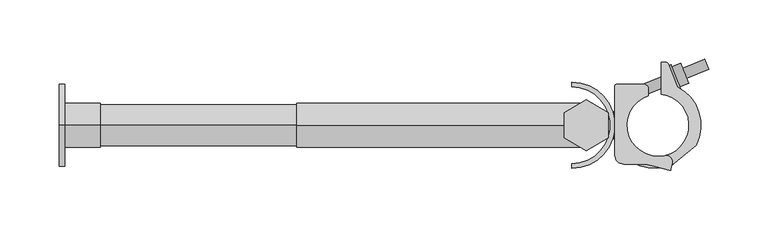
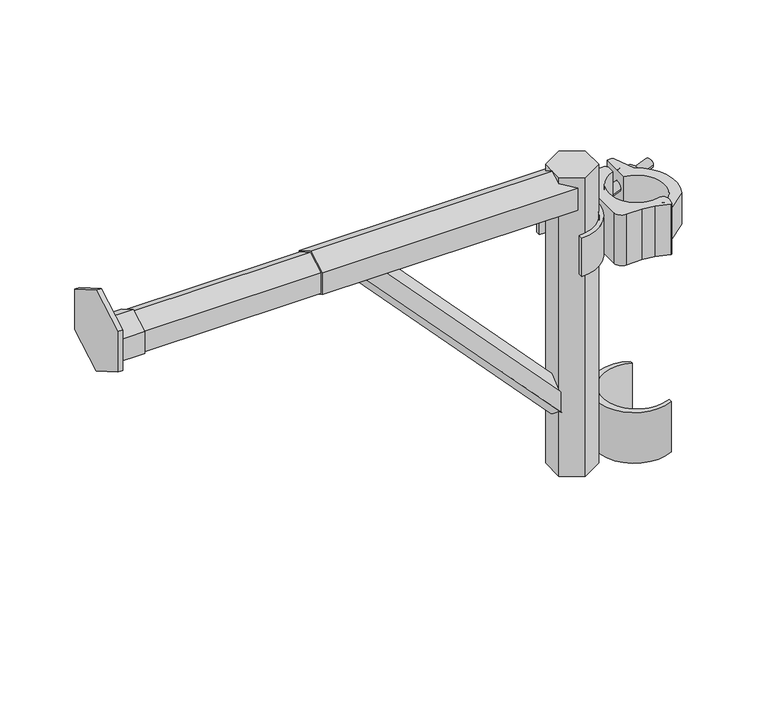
"""IFC4 building model written with IfcOpenShell, lengths in millimetres: proxy geometry, AK_伸縮ブラケット500_軽 : AK_伸縮ブラケット500_軽."""

from ifc_helpers import new_model, si_unit, point, frame, frame_2d, origin, origin_2d, place, context, project, spatial, polyline, circle_curve, ellipse_curve, trimmed, segment, composite_curve, outline, extrude, faceted_brep, source, transform, mapped, element, save
from ifc_brep_helpers import plane_surface, cylinder_surface, revolved_surface, advanced_brep


def generic_models_2c6fe471(model_context):
    return source(origin(), model_context, "Body", "SolidModel", [
        faceted_brep([(-304.3999998, -18.4896424, 10.675), (-304.3999998, 0.0, 21.35), (-304.3999998, 18.4896424, 10.675), (-304.3999998, 18.4896424, -10.675), (-304.3999998, 0.0, -21.35), (-304.3999998, -18.4896424, -10.675), (-41.8603576, 10.675, 21.35), (-60.35, 21.35, 21.35), (-78.8396424, 10.675, 21.35), (-78.8396424, 0.0, 21.35), (-78.8396424, -10.675, 21.35), (-60.35, -21.35, 21.35), (-41.8603576, -10.675, 21.35), (-41.8603576, 10.675, -273.65), (-41.8603576, -10.675, -273.65), (-60.35, -21.35, -273.65), (-78.8396424, -10.675, -273.65), (-78.8396424, 10.675, -273.65), (-60.35, 21.35, -273.65), (-78.8396424, -10.675, 15.1867859), (-65.3042847, -18.4896424, 10.675), (-65.3042847, -18.4896424, -10.675), (-78.8396424, -10.675, -15.1867859), (-78.8396424, 10.675, 15.1867859), (-78.8396424, 0.0, -21.35), (-78.8396424, 10.675, -15.1867859), (-65.3042847, 18.4896424, -10.675), (-65.3042847, 18.4896424, 10.675)], [[[0, 1, 2, 3, 4, 5]], [[6, 7, 8, 9, 10, 11, 12]], [[13, 14, 15, 16, 17, 18]], [[6, 12, 14, 13]], [[12, 11, 15, 14]], [[11, 10, 19, 20, 21, 22, 16, 15]], [[9, 8, 23]], [[10, 9, 19]], [[17, 16, 22, 24, 25]], [[8, 7, 18, 17, 25, 26, 27, 23]], [[7, 6, 13, 18]], [[0, 5, 21, 20]], [[5, 4, 24, 22, 21]], [[4, 3, 26, 25, 24]], [[3, 2, 27, 26]], [[2, 1, 9, 23, 27]], [[1, 0, 20, 19, 9]]]),
        faceted_brep([(-261.3999998, 17.3205081, 10.0), (-261.3999998, 0.0, 20.0), (-261.3999998, -17.3205081, 10.0), (-261.3999998, -17.3205081, -10.0), (-261.3999998, 0.0, -20.0), (-261.3999998, 17.3205081, -10.0), (-470.0, 18.4896424, 10.675), (-470.0, 0.0, 21.35), (-470.0, -18.4896424, 10.675), (-470.0, -18.4896424, -10.675), (-470.0, 0.0, -21.35), (-470.0, 18.4896424, -10.675), (-470.0, 17.3205081, 10.0), (-470.0, 17.3205081, -10.0), (-470.0, 0.0, -20.0), (-470.0, -17.3205081, -10.0), (-470.0, -17.3205081, 10.0), (-470.0, 0.0, 20.0), (-504.6000002, 34.6410162, 32.85), (-504.6000002, 34.6410162, -7.15), (-504.6000002, 0.0, -27.15), (-504.6000002, -34.6410162, -7.15), (-504.6000002, -34.6410162, 32.85), (-504.6000002, 0.0, 52.85), (-500.0, 34.6410162, 32.85), (-500.0, 0.0, 52.85), (-500.0, -34.6410162, 32.85), (-500.0, -34.6410162, -7.15), (-500.0, 0.0, -27.15), (-500.0, 34.6410162, -7.15), (-500.0, 18.4896424, 10.675), (-500.0, 18.4896424, -10.675), (-500.0, 0.0, -21.35), (-500.0, -18.4896424, -10.675), (-500.0, -18.4896424, 10.675), (-500.0, 0.0, 21.35)], [[[0, 1, 2, 3, 4, 5]], [[6, 7, 8, 9, 10, 11], [12, 13, 14, 15, 16, 17]], [[18, 19, 20, 21, 22, 23]], [[24, 25, 26, 27, 28, 29], [30, 31, 32, 33, 34, 35]], [[0, 5, 13, 12]], [[5, 4, 14, 13]], [[4, 3, 15, 14]], [[3, 2, 16, 15]], [[2, 1, 17, 16]], [[1, 0, 12, 17]], [[6, 11, 31, 30]], [[11, 10, 32, 31]], [[10, 9, 33, 32]], [[9, 8, 34, 33]], [[8, 7, 35, 34]], [[7, 6, 30, 35]], [[19, 18, 24, 29]], [[20, 19, 29, 28]], [[21, 20, 28, 27]], [[22, 21, 27, 26]], [[23, 22, 26, 25]], [[18, 23, 25, 24]]]),
        extrude(outline(composite_curve([segment(trimmed(circle_curve(frame_2d((-72.4772304, 0.0)), 32.35), [point((-72.4772304, -32.35))], [point((-72.4772304, 32.35))], True, "CARTESIAN"), True, "CONTINUOUS"), segment(polyline([(-72.4772304, 32.35), (-72.4772304, 36.239624)]), True, "CONTINUOUS"), segment(trimmed(circle_curve(frame_2d((-72.4772304, 0.0)), 36.239624), [point((-72.4772304, 36.239624))], [point((-72.4772304, -36.239624))], False, "CARTESIAN"), True, "CONTINUOUS"), segment(polyline([(-72.4772304, -36.239624), (-72.4772304, -32.35)]), True, "CONTINUOUS")], self_intersect=False)), frame((0.0, 0.0, -63.15), z_axis=(0.0, 0.0, 1.0), x_axis=(1.0, 0.0, 0.0)), (0.0, 0.0, 1.0), 38.0),
        extrude(outline(polyline([(0.0, 0.0), (13.6, 0.0), (20.4, -11.7779455), (13.6, -23.555891), (0.0, -23.555891), (-6.8, -11.7779455), (0.0, 0.0)])), frame((-65.161626, -11.7779455, -203.7085173), z_axis=(-0.682087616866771, 0.0, 0.731270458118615), x_axis=(-0.731270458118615, 0.0, -0.682087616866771)), (0.0, 0.0, 1.0), 269.206264),
        extrude(outline(composite_curve([segment(polyline([(13.0, -29.6230063), (13.0, -32.8304694)]), True, "CONTINUOUS"), segment(trimmed(circle_curve(frame_2d((-2.4397703, -0.0444382)), 36.239624), [point((13.0, -32.8304694))], [point((13.0, 32.741593))], False, "CARTESIAN"), True, "CONTINUOUS"), segment(polyline([(13.0, 32.741593), (13.0, 29.6230063)]), True, "CONTINUOUS"), segment(trimmed(circle_curve(origin_2d(), 32.35), [point((13.0, 29.6230063))], [point((13.0, -29.6230063))], True, "CARTESIAN"), True, "CONTINUOUS")], self_intersect=False)), frame((0.0, 0.0, -268.65), z_axis=(0.0, 0.0, 1.0), x_axis=(1.0, 0.0, 0.0)), (0.0, 0.0, 1.0), 50.0),
        advanced_brep(
        [(9.3330718, -30.709739, -23.15), (4.3330722, -30.709739, -23.15), (6.833072, -30.709739, -21.65), (10.833072, -30.709739, -23.15), (2.833072, -30.709739, -23.15), (10.833072, -30.709739, -24.15), (2.833072, -30.709739, -24.15), (6.833072, -30.709739, -24.15)],
        [
            (0, 1, circle_curve(frame((6.833072, -30.709739, -23.15), z_axis=(0.0, 0.0, 1.0), x_axis=(-1.0, 0.0, 0.0)), 2.4999998)),
            (1, 2, circle_curve(frame((6.833072, -30.709739, -24.483333), z_axis=(0.0, 1.0, 0.0), x_axis=(1.0, 0.0, 0.0)), 2.833333)),
            (2, 0, circle_curve(frame((6.833072, -30.709739, -24.483333), z_axis=(0.0, 1.0, 0.0), x_axis=(-1.0, 0.0, 0.0)), 2.833333)),
            (1, 0, circle_curve(frame((6.833072, -30.709739, -23.15), z_axis=(0.0, 0.0, 1.0), x_axis=(-1.0, 0.0, 0.0)), 2.4999998)),
            (3, 4, circle_curve(frame((6.833072, -30.709739, -23.15), z_axis=(0.0, 0.0, 1.0), x_axis=(-1.0, 0.0, 0.0)), 4.0)),
            (4, 1),
            (0, 3),
            (4, 3, circle_curve(frame((6.833072, -30.709739, -23.15), z_axis=(0.0, 0.0, 1.0), x_axis=(-1.0, 0.0, 0.0)), 4.0)),
            (5, 6, circle_curve(frame((6.833072, -30.709739, -24.15), z_axis=(0.0, 0.0, 1.0), x_axis=(-1.0, 0.0, 0.0)), 4.0)),
            (6, 4),
            (3, 5),
            (6, 5, circle_curve(frame((6.833072, -30.709739, -24.15), z_axis=(0.0, 0.0, 1.0), x_axis=(-1.0, 0.0, 0.0)), 4.0)),
            (7, 6),
            (5, 7),
        ],
        [
            revolved_surface(trimmed(ellipse_curve(frame((6.833072, -30.709739, -24.483333), z_axis=(0.0, -1.0, 0.0), x_axis=(1.0, 0.0, 0.0)), 2.833333, 2.833333), [point((6.833072, -30.709739, -21.65))], [point((4.3330722, -30.709739, -23.15))], True, "CARTESIAN"), (6.833072, -30.709739, -24.15), (0.0, 0.0, -1.0)),
            plane_surface(frame((6.833072, -30.709739, -23.15), z_axis=(0.0, 0.0, 1.0), x_axis=(-1.0, 0.0, 0.0))),
            cylinder_surface(frame((6.833072, -30.709739, -24.15), z_axis=(0.0, 0.0, -1.0), x_axis=(-1.0, 0.0, 0.0)), 4.0),
            plane_surface(frame((6.833072, -30.709739, -24.15), z_axis=(0.0, 0.0, -1.0), x_axis=(-1.0, 0.0, 0.0))),
        ],
        [
            (0, [[1, 2, 3]]),
            (0, [[4, -3, -2]]),
            (1, [[5, 6, -1, 7]]),
            (1, [[8, -7, -4, -6]]),
            (2, [[9, 10, -5, 11]]),
            (2, [[12, -11, -8, -10]]),
            (3, [[13, -9, 14]]),
            (3, [[-14, -12, -13]]),
        ],
    ),
        advanced_brep(
        [(10.833072, -30.709739, -64.15), (2.833072, -30.709739, -64.15), (6.833072, -30.709739, -64.15), (10.833072, -30.709739, -65.15), (2.833072, -30.709739, -65.15), (9.3330718, -30.709739, -65.15), (4.3330722, -30.709739, -65.15), (6.833072, -30.709739, -66.65)],
        [
            (0, 1, circle_curve(frame((6.833072, -30.709739, -64.15), z_axis=(0.0, 0.0, 1.0), x_axis=(-1.0, 0.0, 0.0)), 4.0)),
            (1, 2),
            (2, 0),
            (1, 0, circle_curve(frame((6.833072, -30.709739, -64.15), z_axis=(0.0, 0.0, 1.0), x_axis=(-1.0, 0.0, 0.0)), 4.0)),
            (3, 4, circle_curve(frame((6.833072, -30.709739, -65.15), z_axis=(0.0, 0.0, 1.0), x_axis=(-1.0, 0.0, 0.0)), 4.0)),
            (4, 1),
            (0, 3),
            (4, 3, circle_curve(frame((6.833072, -30.709739, -65.15), z_axis=(0.0, 0.0, 1.0), x_axis=(-1.0, 0.0, 0.0)), 4.0)),
            (5, 6, circle_curve(frame((6.833072, -30.709739, -65.15), z_axis=(0.0, 0.0, 1.0), x_axis=(-1.0, 0.0, 0.0)), 2.4999998)),
            (6, 4),
            (3, 5),
            (6, 5, circle_curve(frame((6.833072, -30.709739, -65.15), z_axis=(0.0, 0.0, 1.0), x_axis=(-1.0, 0.0, 0.0)), 2.4999998)),
            (7, 6, circle_curve(frame((6.833072, -30.709739, -63.816667), z_axis=(0.0, 1.0, 0.0), x_axis=(1.0, 0.0, 0.0)), 2.833333)),
            (5, 7, circle_curve(frame((6.833072, -30.709739, -63.816667), z_axis=(0.0, 1.0, 0.0), x_axis=(-1.0, 0.0, 0.0)), 2.833333)),
        ],
        [
            plane_surface(frame((6.833072, -30.709739, -64.15), z_axis=(0.0, 0.0, 1.0), x_axis=(-1.0, 0.0, 0.0))),
            cylinder_surface(frame((6.833072, -30.709739, -24.15), z_axis=(0.0, 0.0, -1.0), x_axis=(-1.0, 0.0, 0.0)), 4.0),
            plane_surface(frame((6.833072, -30.709739, -65.15), z_axis=(0.0, 0.0, -1.0), x_axis=(-1.0, 0.0, 0.0))),
            revolved_surface(trimmed(ellipse_curve(frame((6.833072, -30.709739, -63.816667), z_axis=(0.0, -1.0, 0.0), x_axis=(1.0, 0.0, 0.0)), 2.833333, 2.833333), [point((4.3330722, -30.709739, -65.15))], [point((6.833072, -30.709739, -66.65))], True, "CARTESIAN"), (6.833072, -30.709739, -24.15), (0.0, 0.0, -1.0)),
        ],
        [
            (0, [[1, 2, 3]]),
            (0, [[4, -3, -2]]),
            (1, [[5, 6, -1, 7]]),
            (1, [[8, -7, -4, -6]]),
            (2, [[9, 10, -5, 11]]),
            (2, [[12, -11, -8, -10]]),
            (3, [[13, -9, 14]]),
            (3, [[-14, -12, -13]]),
        ],
    ),
        advanced_brep(
        [(-13.0914621, 25.408447, -22.9526573), (-13.0914621, 33.408447, -22.9526573), (-13.0914621, 34.457563, -22.9526573), (-13.0914621, 24.359331, -22.9526573), (-13.0914621, 25.408447, -21.9526573), (-13.0914621, 33.408447, -21.9526573), (-13.0914621, 26.9084474, -21.9526573), (-13.0914621, 31.9084466, -21.9526573), (-13.0914621, 29.408447, -20.7520463), (-13.0914621, 26.9084474, -66.8322505), (-13.0914621, 31.9084466, -66.8322505), (-13.0914621, 29.408447, -68.0328615), (-13.0914621, 25.408447, -66.8322505), (-13.0914621, 33.408447, -66.8322505), (-13.0914621, 25.408447, -65.8322505), (-13.0914621, 33.408447, -65.8322505), (-13.0914621, 24.359331, -65.8322505), (-13.0914621, 34.457563, -65.8322505)],
        [
            (0, 1, circle_curve(frame((-13.0914621, 29.408447, -22.9526573), z_axis=(0.0, 0.0, -1.0), x_axis=(0.0, 1.0, 0.0)), 4.0)),
            (1, 2),
            (2, 3, circle_curve(frame((-13.0914621, 29.408447, -22.9526573), z_axis=(0.0, 0.0, 1.0), x_axis=(0.0, 1.0, 0.0)), 5.049116)),
            (3, 0),
            (1, 0, circle_curve(frame((-13.0914621, 29.408447, -22.9526573), z_axis=(0.0, 0.0, -1.0), x_axis=(0.0, 1.0, 0.0)), 4.0)),
            (3, 2, circle_curve(frame((-13.0914621, 29.408447, -22.9526573), z_axis=(0.0, 0.0, 1.0), x_axis=(0.0, 1.0, 0.0)), 5.049116)),
            (4, 5, circle_curve(frame((-13.0914621, 29.408447, -21.9526573), z_axis=(0.0, 0.0, -1.0), x_axis=(0.0, 1.0, 0.0)), 4.0)),
            (5, 1),
            (0, 4),
            (5, 4, circle_curve(frame((-13.0914621, 29.408447, -21.9526573), z_axis=(0.0, 0.0, -1.0), x_axis=(0.0, 1.0, 0.0)), 4.0)),
            (6, 7, circle_curve(frame((-13.0914621, 29.408447, -21.9526573), z_axis=(0.0, 0.0, -1.0), x_axis=(0.0, 1.0, 0.0)), 2.4999996)),
            (7, 5),
            (4, 6),
            (7, 6, circle_curve(frame((-13.0914621, 29.408447, -21.9526573), z_axis=(0.0, 0.0, -1.0), x_axis=(0.0, 1.0, 0.0)), 2.4999996)),
            (8, 7, circle_curve(frame((-13.0914621, 29.408447, -23.9551923), z_axis=(-1.0, 0.0, 0.0), x_axis=(0.0, 1.0, 0.0)), 3.203146)),
            (6, 8, circle_curve(frame((-13.0914621, 29.408447, -23.9551923), z_axis=(-1.0, 0.0, 0.0), x_axis=(0.0, -1.0, 0.0)), 3.203146)),
            (9, 10, circle_curve(frame((-13.0914621, 29.408447, -66.8322505), z_axis=(0.0, 0.0, -1.0), x_axis=(0.0, 1.0, 0.0)), 2.4999996)),
            (10, 11, circle_curve(frame((-13.0914621, 29.408447, -64.8297155), z_axis=(-1.0, 0.0, 0.0), x_axis=(0.0, 1.0, 0.0)), 3.203146)),
            (11, 9, circle_curve(frame((-13.0914621, 29.408447, -64.8297155), z_axis=(-1.0, 0.0, 0.0), x_axis=(0.0, -1.0, 0.0)), 3.203146)),
            (10, 9, circle_curve(frame((-13.0914621, 29.408447, -66.8322505), z_axis=(0.0, 0.0, -1.0), x_axis=(0.0, 1.0, 0.0)), 2.4999996)),
            (12, 13, circle_curve(frame((-13.0914621, 29.408447, -66.8322505), z_axis=(0.0, 0.0, -1.0), x_axis=(0.0, 1.0, 0.0)), 4.0)),
            (13, 10),
            (9, 12),
            (13, 12, circle_curve(frame((-13.0914621, 29.408447, -66.8322505), z_axis=(0.0, 0.0, -1.0), x_axis=(0.0, 1.0, 0.0)), 4.0)),
            (14, 15, circle_curve(frame((-13.0914621, 29.408447, -65.8322505), z_axis=(0.0, 0.0, -1.0), x_axis=(0.0, 1.0, 0.0)), 4.0)),
            (15, 13),
            (12, 14),
            (15, 14, circle_curve(frame((-13.0914621, 29.408447, -65.8322505), z_axis=(0.0, 0.0, -1.0), x_axis=(0.0, 1.0, 0.0)), 4.0)),
            (16, 17, circle_curve(frame((-13.0914621, 29.408447, -65.8322505), z_axis=(0.0, 0.0, -1.0), x_axis=(0.0, 1.0, 0.0)), 5.049116)),
            (17, 15),
            (14, 16),
            (17, 16, circle_curve(frame((-13.0914621, 29.408447, -65.8322505), z_axis=(0.0, 0.0, -1.0), x_axis=(0.0, 1.0, 0.0)), 5.049116)),
            (2, 17),
            (16, 3),
        ],
        [
            plane_surface(frame((-13.0914621, 29.408447, -22.9526573), z_axis=(0.0, 0.0, 1.0), x_axis=(0.0, 1.0, 0.0))),
            cylinder_surface(frame((-13.0914621, 29.408447, -61.350611), z_axis=(0.0, 0.0, 1.0), x_axis=(0.0, 1.0, 0.0)), 4.0),
            plane_surface(frame((-13.0914621, 29.408447, -21.9526573), z_axis=(0.0, 0.0, 1.0), x_axis=(0.0, 1.0, 0.0))),
            revolved_surface(trimmed(ellipse_curve(frame((-13.0914621, 29.408447, -23.9551923), z_axis=(1.0, 0.0, 0.0), x_axis=(0.0, 1.0, 0.0)), 3.203146, 3.203146), [point((-13.0914621, 31.9084466, -21.9526573))], [point((-13.0914621, 29.408447, -20.7520463))], True, "CARTESIAN"), (-13.0914621, 29.408447, -61.350611), (0.0, 0.0, 1.0)),
            revolved_surface(trimmed(ellipse_curve(frame((-13.0914621, 29.408447, -64.8297155), z_axis=(1.0, 0.0, 0.0), x_axis=(0.0, 1.0, 0.0)), 3.203146, 3.203146), [point((-13.0914621, 29.408447, -68.0328615))], [point((-13.0914621, 31.9084466, -66.8322505))], True, "CARTESIAN"), (-13.0914621, 29.408447, -61.350611), (0.0, 0.0, 1.0)),
            plane_surface(frame((-13.0914621, 29.408447, -66.8322505), z_axis=(0.0, 0.0, -1.0), x_axis=(0.0, 1.0, 0.0))),
            plane_surface(frame((-13.0914621, 29.408447, -65.8322505), z_axis=(0.0, 0.0, -1.0), x_axis=(0.0, 1.0, 0.0))),
            cylinder_surface(frame((-13.0914621, 29.408447, -61.350611), z_axis=(0.0, 0.0, 1.0), x_axis=(0.0, 1.0, 0.0)), 5.049116),
        ],
        [
            (0, [[1, 2, 3, 4]]),
            (0, [[5, -4, 6, -2]]),
            (1, [[7, 8, -1, 9]]),
            (1, [[10, -9, -5, -8]]),
            (2, [[11, 12, -7, 13]]),
            (2, [[14, -13, -10, -12]]),
            (3, [[15, -11, 16]]),
            (3, [[-16, -14, -15]]),
            (4, [[17, 18, 19]]),
            (4, [[20, -19, -18]]),
            (5, [[21, 22, -17, 23]]),
            (5, [[24, -23, -20, -22]]),
            (1, [[25, 26, -21, 27]]),
            (1, [[28, -27, -24, -26]]),
            (6, [[29, 30, -25, 31]]),
            (6, [[32, -31, -28, -30]]),
            (7, [[-3, 33, -29, 34]]),
            (7, [[-6, -34, -32, -33]]),
        ],
    ),
        advanced_brep(
        [(-9.2308684, 26.118126, -44.15), (-12.615213, 34.457563, -44.15), (11.5789843, 44.2761518, -44.15), (14.963329, 35.9367148, -44.15), (-10.9230407, 30.2878445, -44.15), (42.761451, 47.2178639, -44.15), (39.3771068, 55.5572996, -44.15), (41.0692789, 51.3875817, -44.15), (24.229369, 39.6970964, -44.15), (20.8450237, 48.036535, -44.15), (25.921541, 35.5273788, -44.15), (19.1528517, 52.2062526, -44.15), (18.5087077, 32.5190735, -44.15), (11.7400193, 49.1979451, -44.15), (19.260785, 30.6658636, -44.15), (10.9879421, 51.051155, -44.15), (17.4075743, 29.913793, -44.15), (9.1347363, 50.2990724, -44.15)],
        [
            (0, 1, circle_curve(frame((-10.9230407, 30.2878445, -44.15), z_axis=(0.9266041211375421, 0.37603829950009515, 0.0), x_axis=(-0.37603829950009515, 0.9266041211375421, 0.0)), 4.4999999)),
            (1, 2),
            (2, 3, circle_curve(frame((13.2711567, 40.1064333, -44.15), z_axis=(-0.9266041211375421, -0.37603829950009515, 0.0), x_axis=(-0.37603829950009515, 0.9266041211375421, 0.0)), 4.4999999)),
            (3, 0),
            (1, 0, circle_curve(frame((-10.9230407, 30.2878445, -44.15), z_axis=(0.9266041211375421, 0.37603829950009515, 0.0), x_axis=(-0.37603829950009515, 0.9266041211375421, 0.0)), 4.4999999)),
            (3, 2, circle_curve(frame((13.2711567, 40.1064333, -44.15), z_axis=(-0.9266041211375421, -0.37603829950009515, 0.0), x_axis=(-0.37603829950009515, 0.9266041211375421, 0.0)), 4.4999999)),
            (4, 1),
            (0, 4),
            (5, 6, circle_curve(frame((41.0692789, 51.3875817, -44.15), z_axis=(0.9266041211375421, 0.37603829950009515, 0.0), x_axis=(-0.37603829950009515, 0.9266041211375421, 0.0)), 4.4999993)),
            (6, 7),
            (7, 5),
            (6, 5, circle_curve(frame((41.0692789, 51.3875817, -44.15), z_axis=(0.9266041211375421, 0.37603829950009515, 0.0), x_axis=(-0.37603829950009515, 0.9266041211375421, 0.0)), 4.4999993)),
            (8, 9, circle_curve(frame((22.5371964, 43.8668157, -44.15), z_axis=(0.9266041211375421, 0.37603829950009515, 0.0), x_axis=(-0.37603829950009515, 0.9266041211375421, 0.0)), 4.5000008)),
            (9, 6),
            (5, 8),
            (9, 8, circle_curve(frame((22.5371964, 43.8668157, -44.15), z_axis=(0.9266041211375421, 0.37603829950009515, 0.0), x_axis=(-0.37603829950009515, 0.9266041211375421, 0.0)), 4.5000008)),
            (10, 11, circle_curve(frame((22.5371964, 43.8668157, -44.15), z_axis=(0.9266041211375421, 0.37603829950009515, 0.0), x_axis=(-0.37603829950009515, 0.9266041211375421, 0.0)), 8.9999998)),
            (11, 9),
            (8, 10),
            (11, 10, circle_curve(frame((22.5371964, 43.8668157, -44.15), z_axis=(0.9266041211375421, 0.37603829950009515, 0.0), x_axis=(-0.37603829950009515, 0.9266041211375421, 0.0)), 8.9999998)),
            (12, 13, circle_curve(frame((15.1243635, 40.8585093, -44.15), z_axis=(0.9266041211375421, 0.37603829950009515, 0.0), x_axis=(-0.37603829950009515, 0.9266041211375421, 0.0)), 8.9999986)),
            (13, 11),
            (10, 12),
            (13, 12, circle_curve(frame((15.1243635, 40.8585093, -44.15), z_axis=(0.9266041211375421, 0.37603829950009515, 0.0), x_axis=(-0.37603829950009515, 0.9266041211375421, 0.0)), 8.9999986)),
            (14, 15, circle_curve(frame((15.1243635, 40.8585093, -44.15), z_axis=(0.9266041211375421, 0.37603829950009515, 0.0), x_axis=(-0.37603829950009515, 0.9266041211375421, 0.0)), 11.0000004)),
            (15, 13),
            (12, 14),
            (15, 14, circle_curve(frame((15.1243635, 40.8585093, -44.15), z_axis=(0.9266041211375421, 0.37603829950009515, 0.0), x_axis=(-0.37603829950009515, 0.9266041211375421, 0.0)), 11.0000004)),
            (16, 17, circle_curve(frame((13.2711553, 40.1064327, -44.15), z_axis=(0.9266041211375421, 0.37603829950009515, 0.0), x_axis=(-0.37603829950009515, 0.9266041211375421, 0.0)), 10.9999939)),
            (17, 15),
            (14, 16),
            (17, 16, circle_curve(frame((13.2711553, 40.1064327, -44.15), z_axis=(0.9266041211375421, 0.37603829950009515, 0.0), x_axis=(-0.37603829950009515, 0.9266041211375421, 0.0)), 10.9999939)),
            (2, 17),
            (16, 3),
        ],
        [
            cylinder_surface(frame((-10.9230407, 30.2878445, -44.15), z_axis=(-0.9266041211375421, -0.37603829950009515, 0.0), x_axis=(-0.37603829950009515, 0.9266041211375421, 0.0)), 4.4999999),
            plane_surface(frame((-10.9230407, 30.2878445, -44.15), z_axis=(-0.9266041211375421, -0.37603829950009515, 0.0), x_axis=(-0.37603829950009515, 0.9266041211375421, 0.0))),
            plane_surface(frame((41.0692789, 51.3875817, -44.15), z_axis=(0.9266041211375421, 0.37603829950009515, 0.0), x_axis=(-0.37603829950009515, 0.9266041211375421, 0.0))),
            cylinder_surface(frame((-10.9230407, 30.2878445, -44.15), z_axis=(-0.9266041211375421, -0.37603829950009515, 0.0), x_axis=(-0.37603829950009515, 0.9266041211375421, 0.0)), 4.5000008),
            plane_surface(frame((22.5371964, 43.8668157, -44.15), z_axis=(0.9266041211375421, 0.37603829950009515, 0.0), x_axis=(-0.37603829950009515, 0.9266041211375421, 0.0))),
            cylinder_surface(frame((-10.9230407, 30.2878445, -44.15), z_axis=(-0.9266041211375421, -0.37603829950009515, 0.0), x_axis=(-0.37603829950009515, 0.9266041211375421, 0.0)), 8.9999986),
            plane_surface(frame((15.1243635, 40.8585093, -44.15), z_axis=(0.9266041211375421, 0.37603829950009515, 0.0), x_axis=(-0.37603829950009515, 0.9266041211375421, 0.0))),
            cylinder_surface(frame((-10.9230407, 30.2878445, -44.15), z_axis=(-0.9266041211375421, -0.37603829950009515, 0.0), x_axis=(-0.37603829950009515, 0.9266041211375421, 0.0)), 10.9999939),
            plane_surface(frame((13.2711553, 40.1064327, -44.15), z_axis=(-0.9266041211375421, -0.37603829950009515, 0.0), x_axis=(-0.37603829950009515, 0.9266041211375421, 0.0))),
        ],
        [
            (0, [[1, 2, 3, 4]]),
            (0, [[5, -4, 6, -2]]),
            (1, [[7, -1, 8]]),
            (1, [[-8, -5, -7]]),
            (2, [[9, 10, 11]]),
            (2, [[12, -11, -10]]),
            (3, [[13, 14, -9, 15]]),
            (3, [[16, -15, -12, -14]]),
            (4, [[17, 18, -13, 19]]),
            (4, [[20, -19, -16, -18]]),
            (5, [[21, 22, -17, 23]]),
            (5, [[24, -23, -20, -22]]),
            (6, [[25, 26, -21, 27]]),
            (6, [[28, -27, -24, -26]]),
            (7, [[29, 30, -25, 31]]),
            (7, [[32, -31, -28, -30]]),
            (8, [[-3, 33, -29, 34]]),
            (8, [[-6, -34, -32, -33]]),
        ],
    ),
        advanced_brep(
        [(2.953176, 26.0330319, -28.65), (5.6904714, -25.5745681, -28.65), (11.994413, -31.7276248, -28.65), (11.6296233, -33.5773448, -28.65), (32.0794389, -16.7734791, -28.65), (16.4637483, 32.2394943, -28.65), (8.5386472, 51.7679076, -28.65), (6.685439, 53.015831, -28.65), (2.953176, 53.015831, -28.65), (2.953176, 26.0330319, -59.65), (2.953176, 53.015831, -59.65), (6.685439, 53.015831, -59.65), (8.5386472, 51.7679076, -59.65), (16.4637483, 32.2394943, -59.65), (32.0794389, -16.7734791, -59.65), (11.6296233, -33.5773448, -59.65), (11.994413, -31.7276248, -59.65), (5.6904713, -25.5745678, -59.65)],
        [
            (0, 1, circle_curve(frame((0.0, 0.0, -28.65), z_axis=(0.0, 0.0, -1.0), x_axis=(1.0, 0.0, 0.0)), 26.2)),
            (1, 2, circle_curve(frame((6.833073, -30.709739, -28.65), z_axis=(0.0, 0.0, -1.0), x_axis=(1.0, 0.0, 0.0)), 5.260753)),
            (2, 3),
            (3, 4),
            (4, 5, circle_curve(frame((0.0, 0.0, -28.65), z_axis=(0.0, 0.0, 1.0), x_axis=(1.0, 0.0, 0.0)), 36.2)),
            (5, 6),
            (6, 7, circle_curve(frame((6.685439, 51.015831, -28.65), z_axis=(0.0, 0.0, 1.0), x_axis=(1.0, 0.0, 0.0)), 2.0)),
            (7, 8),
            (8, 0),
            (9, 10),
            (10, 11),
            (11, 12, circle_curve(frame((6.685439, 51.015831, -59.65), z_axis=(0.0, 0.0, -1.0), x_axis=(1.0, 0.0, 0.0)), 2.0)),
            (12, 13),
            (13, 14, circle_curve(frame((0.0, 0.0, -59.65), z_axis=(0.0, 0.0, -1.0), x_axis=(1.0, 0.0, 0.0)), 36.2)),
            (14, 15),
            (15, 16),
            (16, 17, circle_curve(frame((6.833073, -30.709739, -59.65), z_axis=(0.0, 0.0, 1.0), x_axis=(1.0, 0.0, 0.0)), 5.260753)),
            (17, 9, circle_curve(frame((0.0, 0.0, -59.65), z_axis=(0.0, 0.0, 1.0), x_axis=(1.0, 0.0, 0.0)), 26.2)),
            (0, 9),
            (17, 1),
            (16, 2),
            (15, 3),
            (14, 4),
            (13, 5),
            (12, 6),
            (11, 7),
            (10, 8),
        ],
        [
            plane_surface(frame((26.2, 0.0, -28.65), z_axis=(0.0, 0.0, 1.0), x_axis=(0.0, -1.0, 0.0))),
            plane_surface(frame((26.2, 0.0, -59.65), z_axis=(0.0, 0.0, -1.0), x_axis=(0.0, 1.0, 0.0))),
            revolved_surface(polyline([(26.2, 0.0, -59.65), (26.2, 0.0, -28.65)]), (0.0, 0.0, -59.65), (0.0, 0.0, -1.0)),
            revolved_surface(polyline([(12.093826, -30.709739, -59.65), (12.093826, -30.709739, -28.65)]), (6.833073, -30.709739, -59.65), (0.0, 0.0, -1.0)),
            plane_surface(frame((11.994413, -31.7276248, -28.65), z_axis=(-0.9811028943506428, 0.19348671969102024, 0.0), x_axis=(0.0, 0.0, -1.0))),
            plane_surface(frame((11.6296233, -33.5773448, -28.65), z_axis=(0.6348703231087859, -0.7726187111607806, 0.0), x_axis=(0.0, 0.0, -1.0))),
            cylinder_surface(frame((0.0, 0.0, -59.65), z_axis=(0.0, 0.0, 1.0), x_axis=(1.0, 0.0, 0.0)), 36.2),
            plane_surface(frame((16.4637483, 32.2394943, -28.65), z_axis=(0.9266041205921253, 0.3760383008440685, 0.0), x_axis=(0.0, 0.0, -1.0))),
            cylinder_surface(frame((6.685439, 51.015831, -59.65), z_axis=(0.0, 0.0, 1.0), x_axis=(1.0, 0.0, 0.0)), 2.0),
            plane_surface(frame((6.685439, 53.015831, -28.65), z_axis=(0.0, 1.0, 0.0), x_axis=(0.0, 0.0, -1.0))),
            plane_surface(frame((2.953176, 53.015831, -28.65), z_axis=(-1.0, 0.0, 0.0), x_axis=(0.0, 0.0, -1.0))),
        ],
        [
            (0, [[1, 2, 3, 4, 5, 6, 7, 8, 9]]),
            (1, [[10, 11, 12, 13, 14, 15, 16, 17, 18]]),
            (2, [[-1, 19, -18, 20]]),
            (3, [[-2, -20, -17, 21]]),
            (4, [[-3, -21, -16, 22]]),
            (5, [[-4, -22, -15, 23]]),
            (6, [[-5, -23, -14, 24]]),
            (7, [[-6, -24, -13, 25]]),
            (8, [[-7, -25, -12, 26]]),
            (9, [[-8, -26, -11, 27]]),
            (10, [[-9, -27, -10, -19]]),
        ],
    ),
        advanced_brep(
        [(-36.239624, 32.9575626, -19.15), (-36.239624, -25.297825, -19.15), (-28.739624, -32.797825, -19.15), (-14.161594, -32.797825, -19.15), (-3.0077999, -34.3843784, -19.15), (9.6376321, -38.0561273, -19.15), (10.89758, -37.2892778, -19.15), (11.994413, -31.7276249, -19.15), (5.6904713, -25.5745677, -19.15), (-7.993719, 24.9507602, -19.15), (-7.993719, 30.4575626, -19.15), (-11.993719, 34.4575626, -19.15), (-34.739624, 34.4575626, -19.15), (-36.239624, 32.9575626, -69.15), (-34.739624, 34.4575626, -69.15), (-11.993719, 34.4575626, -69.15), (-7.993719, 30.4575626, -69.15), (-7.993719, 24.9507602, -69.15), (5.6904713, -25.5745677, -69.15), (11.994413, -31.7276249, -69.15), (10.89758, -37.2892778, -69.15), (9.6376321, -38.0561273, -69.15), (-3.0078, -34.384378, -69.15), (-14.161594, -32.797825, -69.15), (-28.739624, -32.797825, -69.15), (-36.239624, -25.297825, -69.15)],
        [
            (0, 1),
            (1, 2, circle_curve(frame((-28.739624, -25.297825, -19.15), z_axis=(0.0, 0.0, 1.0), x_axis=(1.0, 0.0, 0.0)), 7.5)),
            (2, 3),
            (3, 4, circle_curve(frame((-14.161594, -72.797825, -19.15), z_axis=(0.0, 0.0, -1.0), x_axis=(1.0, 0.0, 0.0)), 40.0)),
            (4, 5),
            (5, 6, circle_curve(frame((9.916477, -37.095791, -19.15), z_axis=(0.0, 0.0, 1.0), x_axis=(1.0, 0.0, 0.0)), 1.0000002)),
            (6, 7),
            (7, 8, circle_curve(frame((6.833073, -30.709739, -19.15), z_axis=(0.0, 0.0, 1.0), x_axis=(1.0, 0.0, 0.0)), 5.260753)),
            (8, 9, circle_curve(frame((0.0, 0.0, -19.15), z_axis=(0.0, 0.0, -1.0), x_axis=(1.0, 0.0, 0.0)), 26.1999996)),
            (9, 10),
            (10, 11, circle_curve(frame((-11.993719, 30.4575626, -19.15), z_axis=(0.0, 0.0, 1.0), x_axis=(1.0, 0.0, 0.0)), 4.0)),
            (11, 12),
            (12, 0, circle_curve(frame((-34.739624, 32.9575626, -19.15), z_axis=(0.0, 0.0, 1.0), x_axis=(1.0, 0.0, 0.0)), 1.5)),
            (13, 14, circle_curve(frame((-34.739624, 32.9575626, -69.15), z_axis=(0.0, 0.0, -1.0), x_axis=(1.0, 0.0, 0.0)), 1.5)),
            (14, 15),
            (15, 16, circle_curve(frame((-11.993719, 30.4575626, -69.15), z_axis=(0.0, 0.0, -1.0), x_axis=(1.0, 0.0, 0.0)), 4.0)),
            (16, 17),
            (17, 18, circle_curve(frame((0.0, 0.0, -69.15), z_axis=(0.0, 0.0, 1.0), x_axis=(1.0, 0.0, 0.0)), 26.1999996)),
            (18, 19, circle_curve(frame((6.833073, -30.709739, -69.15), z_axis=(0.0, 0.0, -1.0), x_axis=(1.0, 0.0, 0.0)), 5.260753)),
            (19, 20),
            (20, 21, circle_curve(frame((9.916477, -37.095791, -69.15), z_axis=(0.0, 0.0, -1.0), x_axis=(1.0, 0.0, 0.0)), 1.0000002)),
            (21, 22),
            (22, 23, circle_curve(frame((-14.161594, -72.797825, -69.15), z_axis=(0.0, 0.0, 1.0), x_axis=(1.0, 0.0, 0.0)), 40.0)),
            (23, 24),
            (24, 25, circle_curve(frame((-28.739624, -25.297825, -69.15), z_axis=(0.0, 0.0, -1.0), x_axis=(1.0, 0.0, 0.0)), 7.5)),
            (25, 13),
            (0, 13),
            (25, 1),
            (24, 2),
            (23, 3),
            (22, 4),
            (21, 5),
            (20, 6),
            (19, 7),
            (18, 8),
            (17, 9),
            (16, 10),
            (15, 11),
            (14, 12),
        ],
        [
            plane_surface(frame((-36.239624, -25.297825, -19.15), z_axis=(0.0, 0.0, 1.0), x_axis=(-4.263322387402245e-12, -1.0, 0.0))),
            plane_surface(frame((-36.239624, -25.297825, -69.15), z_axis=(0.0, 0.0, -1.0), x_axis=(4.263322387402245e-12, 1.0, 0.0))),
            plane_surface(frame((-36.239624, 32.9575626, -19.15), z_axis=(-1.0, 4.263322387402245e-12, 0.0), x_axis=(0.0, 0.0, -1.0))),
            cylinder_surface(frame((-28.739624, -25.297825, -69.15), z_axis=(0.0, 0.0, 1.0), x_axis=(1.0, 0.0, 0.0)), 7.5),
            plane_surface(frame((-28.739624, -32.797825, -19.15), z_axis=(-1.703698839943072e-11, -1.0, 0.0), x_axis=(0.0, 0.0, -1.0))),
            revolved_surface(polyline([(25.838406, -72.797825, -69.15), (25.838406, -72.797825, -19.15)]), (-14.161594, -72.797825, -69.15), (0.0, 0.0, -1.0)),
            plane_surface(frame((-3.0078, -34.384378, -19.15), z_axis=(-0.2788448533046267, -0.9603361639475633, 0.0), x_axis=(0.0, 0.0, -1.0))),
            cylinder_surface(frame((9.916477, -37.095791, -69.15), z_axis=(0.0, 0.0, 1.0), x_axis=(1.0, 0.0, 0.0)), 1.0000002),
            plane_surface(frame((10.89758, -37.2892778, -19.15), z_axis=(0.9811028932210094, -0.19348672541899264, 0.0), x_axis=(0.0, 0.0, -1.0))),
            cylinder_surface(frame((6.833073, -30.709739, -69.15), z_axis=(0.0, 0.0, 1.0), x_axis=(1.0, 0.0, 0.0)), 5.260753),
            revolved_surface(polyline([(26.1999996, 0.0, -69.15), (26.1999996, 0.0, -19.15)]), (0.0, 0.0, -69.15), (0.0, 0.0, -1.0)),
            plane_surface(frame((-7.993719, 24.9507602, -19.15), z_axis=(1.0, 0.0, 0.0), x_axis=(0.0, 0.0, -1.0))),
            cylinder_surface(frame((-11.993719, 30.4575626, -69.15), z_axis=(0.0, 0.0, 1.0), x_axis=(1.0, 0.0, 0.0)), 4.0),
            plane_surface(frame((-11.993719, 34.4575626, -19.15), z_axis=(-1.057212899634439e-12, 1.0, 0.0), x_axis=(0.0, 0.0, -1.0))),
            cylinder_surface(frame((-34.739624, 32.9575626, -69.15), z_axis=(0.0, 0.0, 1.0), x_axis=(1.0, 0.0, 0.0)), 1.5),
        ],
        [
            (0, [[1, 2, 3, 4, 5, 6, 7, 8, 9, 10, 11, 12, 13]]),
            (1, [[14, 15, 16, 17, 18, 19, 20, 21, 22, 23, 24, 25, 26]]),
            (2, [[-1, 27, -26, 28]]),
            (3, [[-2, -28, -25, 29]]),
            (4, [[-3, -29, -24, 30]]),
            (5, [[-4, -30, -23, 31]]),
            (6, [[-5, -31, -22, 32]]),
            (7, [[-6, -32, -21, 33]]),
            (8, [[-7, -33, -20, 34]]),
            (9, [[-8, -34, -19, 35]]),
            (10, [[-9, -35, -18, 36]]),
            (11, [[-10, -36, -17, 37]]),
            (12, [[-11, -37, -16, 38]]),
            (13, [[-12, -38, -15, 39]]),
            (14, [[-13, -39, -14, -27]]),
        ],
    ),
    ])


if __name__ == "__main__":
    model = new_model("IFC4")
    model_context = context("Model", 3, world=origin())
    ifc_project = project(units=[si_unit("LENGTHUNIT", "METRE", prefix="MILLI")], contexts=[model_context])
    site = spatial("IfcSite", under=ifc_project)
    building = spatial("IfcBuilding", under=site)
    placement = place(None, origin())
    generic_models_shape = generic_models_2c6fe471(model_context)
    element("IfcBuildingElementProxy", 1, Name="AK_伸縮ブラケット500_軽 : AK_伸縮ブラケット500_軽", ObjectType="AK_伸縮ブラケット500_軽 : AK_伸縮ブラケット500_軽", at=placement, inside=building, context=model_context, shape_type="MappedRepresentation", body=[
        mapped(generic_models_shape, transform((0.0, 0.0, 0.0), x_axis=(1.0, 0.0, 0.0), y_axis=(0.0, 1.0, 0.0), z_axis=(0.0, 0.0, 1.0))),
    ])
    save(model, "model.ifc")
